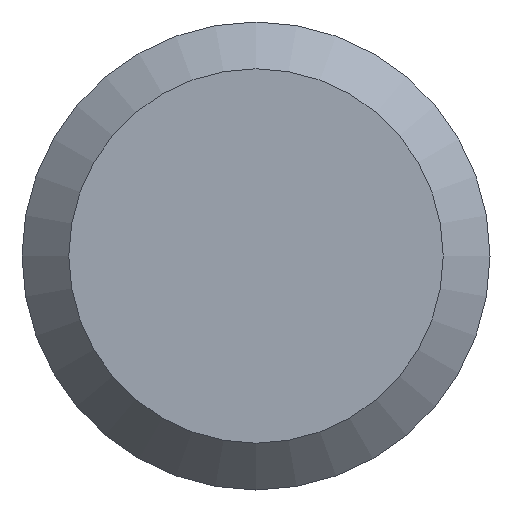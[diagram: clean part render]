
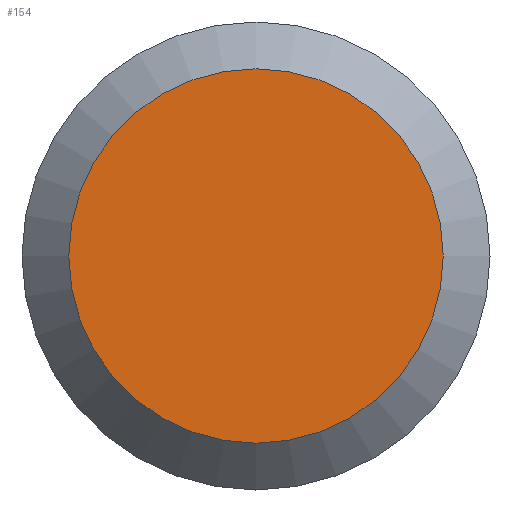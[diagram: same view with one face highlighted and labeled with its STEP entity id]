
A CAD part, left-side view. The second image highlights one B-rep face of the part: STEP entity #154.
In plain terms, the highlighted planar face has unit normal (-1, 0, 0).
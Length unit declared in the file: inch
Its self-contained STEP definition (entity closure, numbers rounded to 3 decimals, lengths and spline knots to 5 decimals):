
#17 = CIRCLE ( 'NONE', #236, 0.0912 ) ;
#36 = EDGE_LOOP ( 'NONE', ( #130 ) ) ;
#49 = VERTEX_POINT ( 'NONE', #185 ) ;
#79 = FACE_OUTER_BOUND ( 'NONE', #36, .T. ) ;
#118 = DIRECTION ( 'NONE',  ( -1., 0., 0. ) ) ;
#130 = ORIENTED_EDGE ( 'NONE', *, *, #206, .T. ) ;
#134 = AXIS2_PLACEMENT_3D ( 'NONE', #199, #212, #162 ) ;
#138 = CARTESIAN_POINT ( 'NONE',  ( 0., 0., 0. ) ) ;
#154 = ADVANCED_FACE ( 'NONE', ( #79 ), #235, .F. ) ;
#162 = DIRECTION ( 'NONE',  ( 0., 0., -1. ) ) ;
#185 = CARTESIAN_POINT ( 'NONE',  ( 0., 0., -0.0912 ) ) ;
#196 = DIRECTION ( 'NONE',  ( 0., 0., -1. ) ) ;
#199 = CARTESIAN_POINT ( 'NONE',  ( 0., 0.114, 0. ) ) ;
#206 = EDGE_CURVE ( 'NONE', #49, #49, #17, .T. ) ;
#212 = DIRECTION ( 'NONE',  ( 1., 0., 0. ) ) ;
#235 = PLANE ( 'NONE',  #134 ) ;
#236 = AXIS2_PLACEMENT_3D ( 'NONE', #138, #118, #196 ) ;
